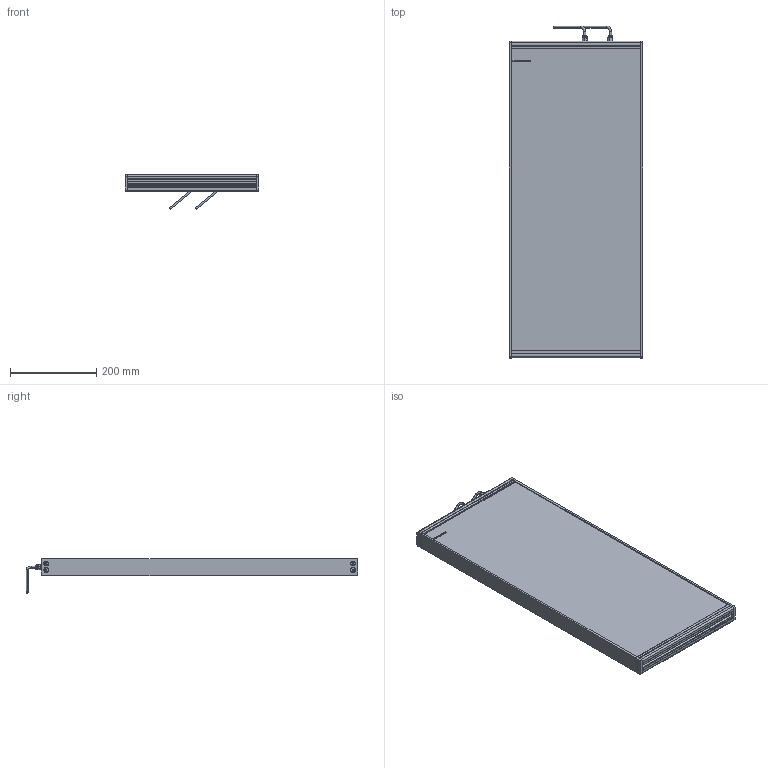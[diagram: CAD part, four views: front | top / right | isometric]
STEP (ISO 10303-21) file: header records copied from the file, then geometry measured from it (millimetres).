
FILE_DESCRIPTION (( 'STEP AP214' ), '1' );
FILE_NAME ('EFFI-BL-300T-700-2M12.STEP', '2021-06-28T09:23:44', ( '' ), ( '' ), 'SwSTEP 2.0', 'SolidWorks 2021', '' );
FILE_SCHEMA (( 'AUTOMOTIVE_DESIGN' ));
Length unit declared in the file: millimetre
Products named in the file (7): EFFI-BL-300T-700-2M12; profile modif_lg 99.5 mm; Pièce2^EFFI-BL-XXXT-YYY + 2 M12; cordon_Avec cable; 003776; bord fin modif_lg 436.5 mm
Assembly tree (15 placements, depth 2):
  EFFI-BL-300T-700-2M12
    profile modif_lg 99.5 mm
    bord fin modif_lg 436.5 mm  x2
    Pièce2^EFFI-BL-XXXT-YYY + 2 M12
    profile modif_lg 99.5 mm
    003776  x8
    cordon_Avec cable  x2
Bounding box: 310 x 771.15 x 80.73 mm (x, y, z)
Volume: 7903274.1 mm3; surface area: 721401.2 mm2
Topology: 13 solids, 25 shells, 669 faces, 1688 edges, 1082 vertices
Faces by surface type: plane 376, bspline 137, cylinder 116, cone 20, torus 20
Entity records: 16397 total; most frequent: CARTESIAN_POINT 5293, ORIENTED_EDGE 2162, DIRECTION 1887, EDGE_CURVE 1085, VECTOR 793, LINE 793, VERTEX_POINT 715, AXIS2_PLACEMENT_3D 547
